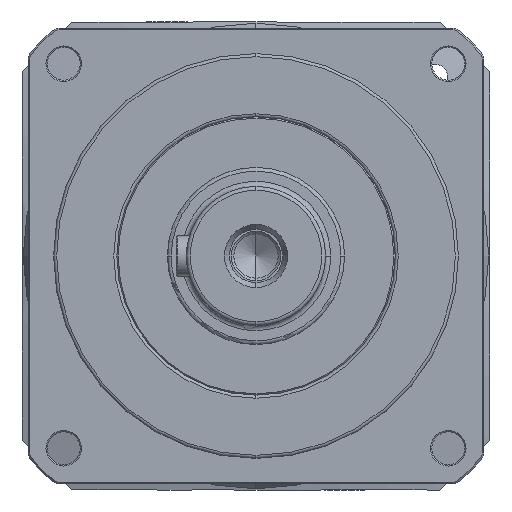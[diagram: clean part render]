
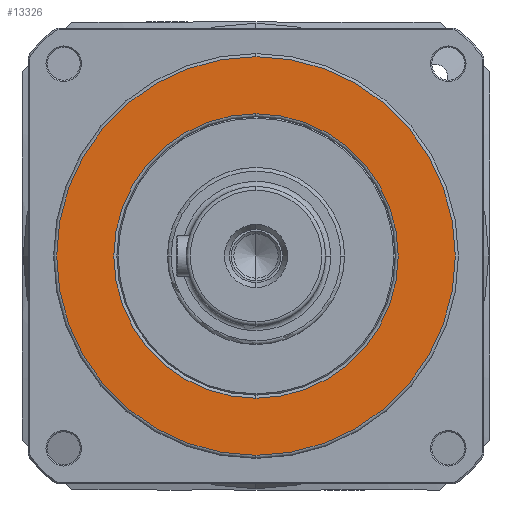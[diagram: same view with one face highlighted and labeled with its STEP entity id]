
A CAD part, left-side view. The second image highlights one B-rep face of the part: STEP entity #13326.
In plain terms, the highlighted planar face has unit normal (-1, 0, 0).
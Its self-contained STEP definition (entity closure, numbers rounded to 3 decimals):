
#1986 = CARTESIAN_POINT ( 'NONE',  ( -151., 0., 78.8 ) ) ;
#2275 = CARTESIAN_POINT ( 'NONE',  ( -151., 56.204, 0. ) ) ;
#4322 = DIRECTION ( 'NONE',  ( -1., 0., 0. ) ) ;
#4694 = ORIENTED_EDGE ( 'NONE', *, *, #38589, .F. ) ;
#4889 = VERTEX_POINT ( 'NONE', #21667 ) ;
#5704 = ORIENTED_EDGE ( 'NONE', *, *, #23807, .F. ) ;
#8153 = DIRECTION ( 'NONE',  ( 1., 0., 0. ) ) ;
#9651 = DIRECTION ( 'NONE',  ( 0., 0., -1. ) ) ;
#9723 = AXIS2_PLACEMENT_3D ( 'NONE', #27686, #4322, #31465 ) ;
#11444 = CARTESIAN_POINT ( 'NONE',  ( -151., 0., 0. ) ) ;
#11956 = VERTEX_POINT ( 'NONE', #1986 ) ;
#12034 = CIRCLE ( 'NONE', #20406, 78.8 ) ;
#12121 = EDGE_CURVE ( 'NONE', #11956, #22992, #12034, .T. ) ;
#12852 = DIRECTION ( 'NONE',  ( 0., 0., 1. ) ) ;
#13326 = ADVANCED_FACE ( 'NONE', ( #44399, #15378 ), #37026, .F. ) ;
#14904 = CARTESIAN_POINT ( 'NONE',  ( -151., 0., 0. ) ) ;
#15378 = FACE_OUTER_BOUND ( 'NONE', #35192, .T. ) ;
#18799 = DIRECTION ( 'NONE',  ( 0., 0., 1. ) ) ;
#20406 = AXIS2_PLACEMENT_3D ( 'NONE', #11444, #49116, #49085 ) ;
#21499 = CARTESIAN_POINT ( 'NONE',  ( -151., 0., -56.204 ) ) ;
#21667 = CARTESIAN_POINT ( 'NONE',  ( -151., 0., 56.204 ) ) ;
#22931 = ORIENTED_EDGE ( 'NONE', *, *, #43735, .F. ) ;
#22992 = VERTEX_POINT ( 'NONE', #33906 ) ;
#23179 = CIRCLE ( 'NONE', #9723, 56.204 ) ;
#23807 = EDGE_CURVE ( 'NONE', #32153, #4889, #44575, .T. ) ;
#26580 = AXIS2_PLACEMENT_3D ( 'NONE', #2275, #8153, #9651 ) ;
#27686 = CARTESIAN_POINT ( 'NONE',  ( -151., 0., 0. ) ) ;
#30306 = CARTESIAN_POINT ( 'NONE',  ( -151., 0., 0. ) ) ;
#31465 = DIRECTION ( 'NONE',  ( 0., 0., 1. ) ) ;
#32153 = VERTEX_POINT ( 'NONE', #21499 ) ;
#33301 = DIRECTION ( 'NONE',  ( -1., 0., 0. ) ) ;
#33906 = CARTESIAN_POINT ( 'NONE',  ( -151., 0., -78.8 ) ) ;
#35057 = CIRCLE ( 'NONE', #39353, 78.8 ) ;
#35192 = EDGE_LOOP ( 'NONE', ( #46295, #22931 ) ) ;
#37026 = PLANE ( 'NONE',  #26580 ) ;
#38576 = EDGE_LOOP ( 'NONE', ( #4694, #5704 ) ) ;
#38589 = EDGE_CURVE ( 'NONE', #4889, #32153, #23179, .T. ) ;
#39353 = AXIS2_PLACEMENT_3D ( 'NONE', #14904, #41223, #18799 ) ;
#41223 = DIRECTION ( 'NONE',  ( 1., 0., 0. ) ) ;
#43685 = AXIS2_PLACEMENT_3D ( 'NONE', #30306, #33301, #12852 ) ;
#43735 = EDGE_CURVE ( 'NONE', #22992, #11956, #35057, .T. ) ;
#44399 = FACE_BOUND ( 'NONE', #38576, .T. ) ;
#44575 = CIRCLE ( 'NONE', #43685, 56.204 ) ;
#46295 = ORIENTED_EDGE ( 'NONE', *, *, #12121, .F. ) ;
#49085 = DIRECTION ( 'NONE',  ( 0., 0., 1. ) ) ;
#49116 = DIRECTION ( 'NONE',  ( 1., 0., 0. ) ) ;
